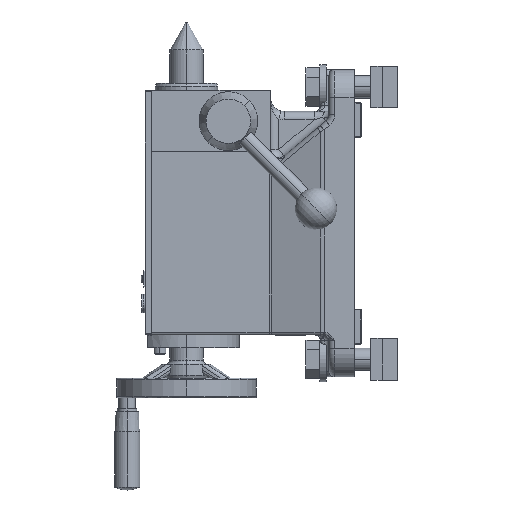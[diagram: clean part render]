
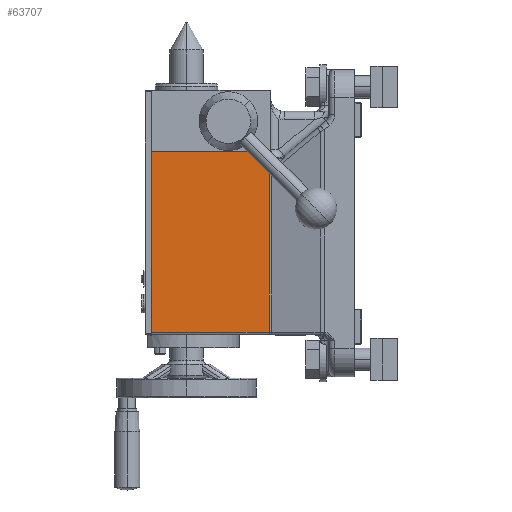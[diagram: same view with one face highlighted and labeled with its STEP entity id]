
A CAD part, left-side view. The second image highlights one B-rep face of the part: STEP entity #63707.
In plain terms, the highlighted planar face has unit normal (-1, 0, 0) as drawn and (0, 0, 1) by its records, which use the part's own axes.
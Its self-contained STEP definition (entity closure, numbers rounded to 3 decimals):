
#504 = CARTESIAN_POINT ( 'NONE',  ( 130.055, 59.44, 44. ) ) ;
#3535 = EDGE_CURVE ( 'NONE', #56987, #24065, #27074, .T. ) ;
#4662 = CARTESIAN_POINT ( 'NONE',  ( 118.608, 60.873, 44. ) ) ;
#6109 = CARTESIAN_POINT ( 'NONE',  ( 131., 59.772, 44. ) ) ;
#8232 = VERTEX_POINT ( 'NONE', #13784 ) ;
#10311 = CARTESIAN_POINT ( 'NONE',  ( 122.239, 59.121, 44. ) ) ;
#11277 = CARTESIAN_POINT ( 'NONE',  ( 126.861, 55.746, 44. ) ) ;
#11516 = CARTESIAN_POINT ( 'NONE',  ( 127.221, 56.683, 44. ) ) ;
#12060 = VECTOR ( 'NONE', #16833, 1000. ) ;
#12992 = ORIENTED_EDGE ( 'NONE', *, *, #49958, .T. ) ;
#13413 = CARTESIAN_POINT ( 'NONE',  ( 190., 145., 44. ) ) ;
#13784 = CARTESIAN_POINT ( 'NONE',  ( 126.861, 55.746, 44. ) ) ;
#16363 = VECTOR ( 'NONE', #34720, 1000. ) ;
#16533 = EDGE_CURVE ( 'NONE', #8232, #21431, #22631, .T. ) ;
#16833 = DIRECTION ( 'NONE',  ( 0., 1., 0. ) ) ;
#17242 = CARTESIAN_POINT ( 'NONE',  ( 127.761, 57.53, 44. ) ) ;
#17564 = CARTESIAN_POINT ( 'NONE',  ( 2., 60.873, 44. ) ) ;
#19101 = PLANE ( 'NONE',  #68490 ) ;
#19284 = ORIENTED_EDGE ( 'NONE', *, *, #55935, .T. ) ;
#20118 = EDGE_CURVE ( 'NONE', #61592, #8232, #30588, .T. ) ;
#21431 = VERTEX_POINT ( 'NONE', #65898 ) ;
#22631 = B_SPLINE_CURVE_WITH_KNOTS ( 'NONE', 3,
 ( #11277, #62131, #11516, #51039, #17242, #56736, #22894, #62373, #28601, #68049, #34257, #504, #39951, #6109 ),
 .UNSPECIFIED., .F., .F.,
 ( 4, 2, 2, 2, 2, 2, 4 ),
 ( 0., 0.001, 0.002, 0.003, 0.004, 0.004, 0.006 ),
 .UNSPECIFIED. ) ;
#22894 = CARTESIAN_POINT ( 'NONE',  ( 128.244, 58.108, 44. ) ) ;
#24065 = VERTEX_POINT ( 'NONE', #42517 ) ;
#24792 = DIRECTION ( 'NONE',  ( 0., 0., -1. ) ) ;
#25325 = LINE ( 'NONE', #50648, #12060 ) ;
#27074 = LINE ( 'NONE', #66134, #57111 ) ;
#28601 = CARTESIAN_POINT ( 'NONE',  ( 128.792, 58.619, 44. ) ) ;
#29540 = CARTESIAN_POINT ( 'NONE',  ( 116.238, 60.873, 44. ) ) ;
#30588 =( BOUNDED_CURVE ( )  B_SPLINE_CURVE ( 3, ( #38487, #4662, #10311, #49804 ),
 .UNSPECIFIED., .F., .F. ) 
 B_SPLINE_CURVE_WITH_KNOTS ( ( 4, 4 ),
 ( 0.184, 0.731 ),
 .UNSPECIFIED. ) 
 CURVE ( )  GEOMETRIC_REPRESENTATION_ITEM ( )  RATIONAL_B_SPLINE_CURVE ( ( 1., 0.975, 0.975, 1. ) ) 
 REPRESENTATION_ITEM ( '' )  );
#33078 = VECTOR ( 'NONE', #54444, 1000. ) ;
#34257 = CARTESIAN_POINT ( 'NONE',  ( 129.404, 59.063, 44. ) ) ;
#34720 = DIRECTION ( 'NONE',  ( 1., 0., 0. ) ) ;
#34841 = LINE ( 'NONE', #71222, #33078 ) ;
#37461 = EDGE_CURVE ( 'NONE', #56040, #61592, #64907, .T. ) ;
#37894 = ORIENTED_EDGE ( 'NONE', *, *, #16533, .T. ) ;
#38487 = CARTESIAN_POINT ( 'NONE',  ( 116.238, 60.873, 44. ) ) ;
#39951 = CARTESIAN_POINT ( 'NONE',  ( 130.515, 59.634, 44. ) ) ;
#42517 = CARTESIAN_POINT ( 'NONE',  ( 2., 145., 44. ) ) ;
#45837 = CARTESIAN_POINT ( 'NONE',  ( 115.536, 60.873, 44. ) ) ;
#47996 = ORIENTED_EDGE ( 'NONE', *, *, #20118, .T. ) ;
#49458 = ORIENTED_EDGE ( 'NONE', *, *, #3535, .T. ) ;
#49804 = CARTESIAN_POINT ( 'NONE',  ( 126.861, 55.746, 44. ) ) ;
#49958 = EDGE_CURVE ( 'NONE', #24065, #56040, #34841, .T. ) ;
#50648 = CARTESIAN_POINT ( 'NONE',  ( 131., 58., 44. ) ) ;
#51039 = CARTESIAN_POINT ( 'NONE',  ( 127.615, 57.323, 44. ) ) ;
#54444 = DIRECTION ( 'NONE',  ( 0., -1., 0. ) ) ;
#54600 = DIRECTION ( 'NONE',  ( -1., 0., 0. ) ) ;
#55232 = ORIENTED_EDGE ( 'NONE', *, *, #37461, .T. ) ;
#55935 = EDGE_CURVE ( 'NONE', #21431, #56987, #25325, .T. ) ;
#56040 = VERTEX_POINT ( 'NONE', #17564 ) ;
#56736 = CARTESIAN_POINT ( 'NONE',  ( 128.076, 57.923, 44. ) ) ;
#56987 = VERTEX_POINT ( 'NONE', #67022 ) ;
#57111 = VECTOR ( 'NONE', #54600, 1000. ) ;
#58019 = EDGE_LOOP ( 'NONE', ( #37894, #19284, #49458, #12992, #55232, #47996 ) ) ;
#61300 = FACE_OUTER_BOUND ( 'NONE', #58019, .T. ) ;
#61592 = VERTEX_POINT ( 'NONE', #29540 ) ;
#62131 = CARTESIAN_POINT ( 'NONE',  ( 127.013, 56.229, 44. ) ) ;
#62373 = CARTESIAN_POINT ( 'NONE',  ( 128.602, 58.456, 44. ) ) ;
#63707 = ADVANCED_FACE ( 'NONE', ( #61300 ), #19101, .F. ) ;
#64237 = DIRECTION ( 'NONE',  ( 0., 1., 0. ) ) ;
#64907 = LINE ( 'NONE', #45837, #16363 ) ;
#65898 = CARTESIAN_POINT ( 'NONE',  ( 131., 59.772, 44. ) ) ;
#66134 = CARTESIAN_POINT ( 'NONE',  ( 190., 145., 44. ) ) ;
#67022 = CARTESIAN_POINT ( 'NONE',  ( 131., 145., 44. ) ) ;
#68049 = CARTESIAN_POINT ( 'NONE',  ( 129.192, 58.922, 44. ) ) ;
#68490 = AXIS2_PLACEMENT_3D ( 'NONE', #13413, #24792, #64237 ) ;
#71222 = CARTESIAN_POINT ( 'NONE',  ( 2., 60.873, 44. ) ) ;
